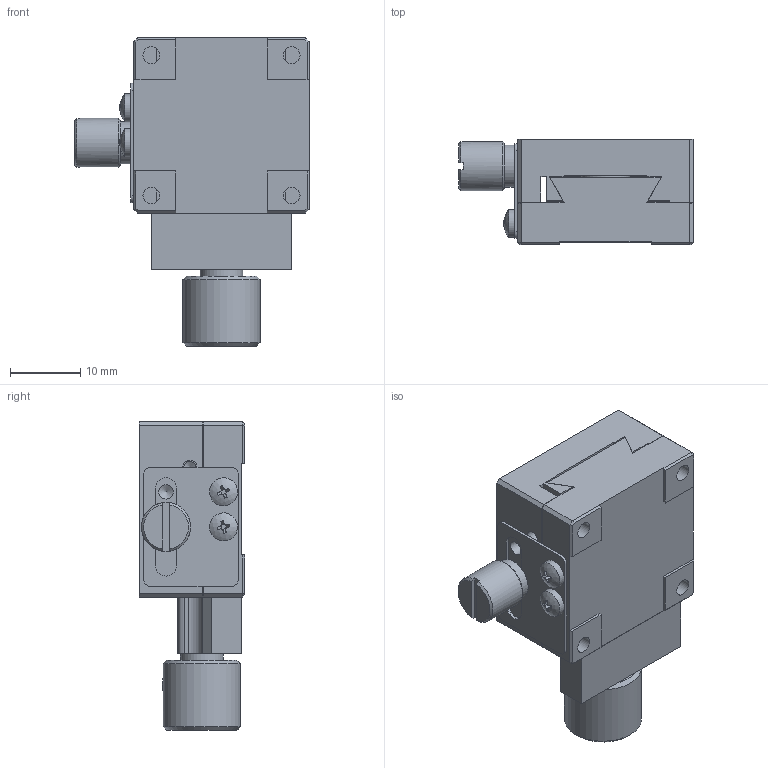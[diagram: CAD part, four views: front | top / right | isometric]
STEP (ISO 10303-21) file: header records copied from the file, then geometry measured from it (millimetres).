
FILE_DESCRIPTION (( 'STEP AP203' ), '1' );
FILE_NAME ('BFA25.STEP', '2024-07-31T02:33:16', ( 'Windows User' ), ( 'P R C' ), 'SwSTEP 2.0', 'SolidWorks 2024', '' );
FILE_SCHEMA (( 'CONFIG_CONTROL_DESIGN' ));
Length unit declared in the file: millimetre
Products named in the file (1): BFA25
Bounding box: 33.4 x 15 x 44 mm (x, y, z)
Volume: 10133.9 mm3; surface area: 9659.1 mm2
Topology: 14 solids, 14 shells, 637 faces, 1641 edges, 1065 vertices
Faces by surface type: plane 420, cylinder 88, bspline 69, cone 56, sphere 2, torus 2
Full cylindrical faces by diameter (mm): 1.6 x10, 2 x2, 2.05 x7, 2.1 x1, 2.4 x4, 2.5 x7, 2.9 x3, 3 x2, 4 x9, 4.1 x1, 4.2 x2, 4.4 x1, 4.5 x3, 4.7 x2, 6 x2, 6.094 x1, 6.9 x1, 7 x1, 7.5 x1, 11 x1
Entity records: 25008 total; most frequent: CARTESIAN_POINT 10893, ORIENTED_EDGE 2962, DIRECTION 2499, EDGE_CURVE 1481, VERTEX_POINT 1019, VECTOR 875, LINE 875, EDGE_LOOP 820
